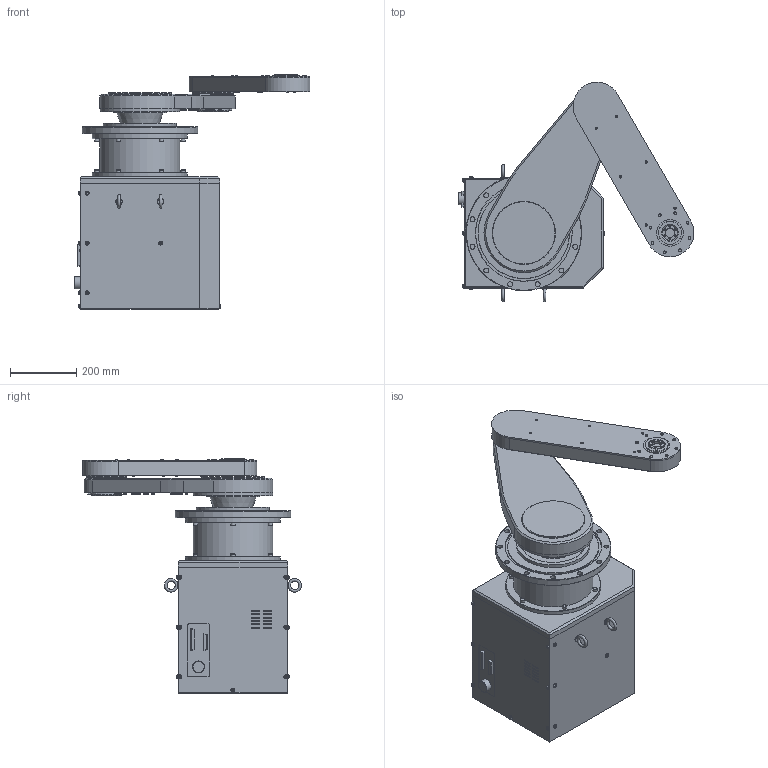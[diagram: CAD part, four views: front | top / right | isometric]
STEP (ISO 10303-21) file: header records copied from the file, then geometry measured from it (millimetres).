
FILE_DESCRIPTION(/* description */ (''),/* implementation_level */ '2;1');
FILE_NAME(/* name */ 'C:\Users\h-mitaka\Desktop\\X2\FF8EFF70FF91FF8DFF9FFF70FF7CFF9E7528\X0\\1D-03423\LVHR3440S-040-SM-03423.stp',/* time_stamp */ '2016-11-10T18:40:27+09:00',/* author */ ('h-mitaka'),/* organization */ (''),/* preprocessor_version */ 'ST-DEVELOPER v16.1',/* originating_system */ 'Autodesk Inventor 2016',/* authorisation */ '');
FILE_SCHEMA (('AUTOMOTIVE_DESIGN { 1 0 10303 214 3 1 1 }'));
Length unit declared in the file: millimetre
Products named in the file (6): BODY-LVSB040-03423; PIPE-LVS040; ARM1-LV440; ARM2-LV440-R; JOINT-03423; LVHR3440S-040-SM-03423
Assembly tree (5 placements, depth 2):
  LVHR3440S-040-SM-03423
    BODY-LVSB040-03423
    PIPE-LVS040
    ARM1-LV440
    ARM2-LV440-R
    JOINT-03423
Bounding box: 710 x 659.54 x 707.5 mm (x, y, z)
Volume: 71917861.5 mm3; surface area: 1973969.2 mm2
Topology: 5 solids, 5 shells, 614 faces, 1211 edges, 750 vertices
Faces by surface type: plane 259, cylinder 214, cone 96, torus 37, bspline 8
Full cylindrical faces by diameter (mm): 5 x7, 6 x6, 6.9 x13, 7 x9, 8 x7, 8.5 x49, 12 x16, 13 x12, 15 x12, 27 x1, 36 x1, 45 x1, 45.02 x1, 63 x1, 70 x1, 80 x5, 97 x1, 122 x1, 128 x3, 140 x1, 160 x1, 184 x1, 190 x1, 220 x1, 239.98 x1, 240 x1, 275 x1, 286 x2, 291 x1, 348 x1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
Entity records: 14584 total; most frequent: DIRECTION 2706, CARTESIAN_POINT 2512, ORIENTED_EDGE 1806, AXIS2_PLACEMENT_3D 1194, EDGE_LOOP 1093, EDGE_CURVE 903, VERTEX_POINT 728, ADVANCED_FACE 614
